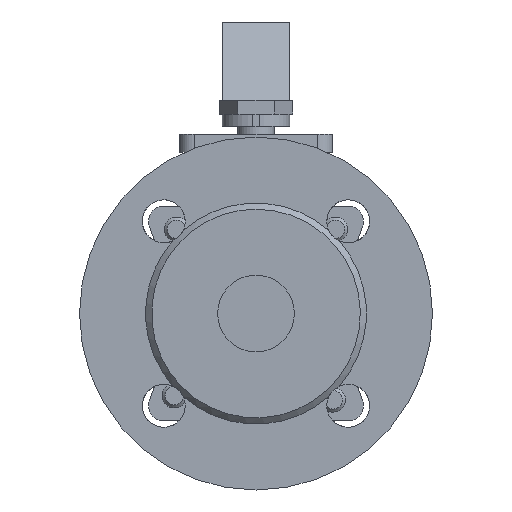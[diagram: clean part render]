
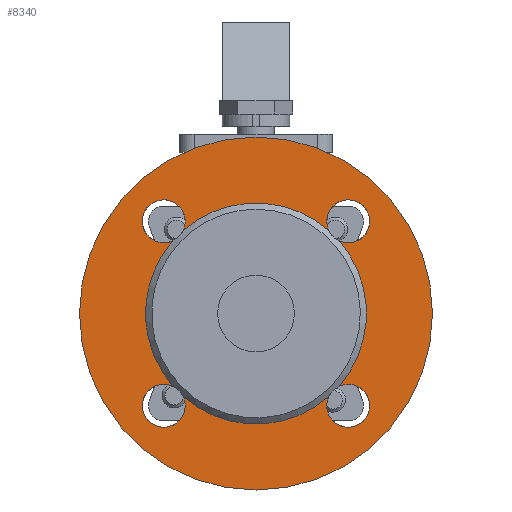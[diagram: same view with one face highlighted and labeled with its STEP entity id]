
A CAD part, left-side view. The second image highlights one B-rep face of the part: STEP entity #8340.
In plain terms, the highlighted planar face has unit normal (-1, 0, 0).
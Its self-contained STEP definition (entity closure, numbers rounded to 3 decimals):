
#8340=ADVANCED_FACE('',(#15498,#15500),#15502,.T.);
#15498=FACE_BOUND('',#15499,.T.);
#15499=EDGE_LOOP('',(#21430,#21431));
#15500=FACE_BOUND('',#15501,.T.);
#15501=EDGE_LOOP('',(#21432,#21433,#21434,#21435,#21436,#21437,#21438,#21439,#21440,
#21441,#21442,#21443,#21444));
#15502=PLANE('',#15503);
#15503=AXIS2_PLACEMENT_3D('',#15504,#15505,#15506);
#15504=CARTESIAN_POINT('',(2717.019,386.494,-640.883));
#15505=DIRECTION('',(-1.,0.,0.));
#15506=DIRECTION('',(0.,-1.,0.));
#21430=ORIENTED_EDGE('',*,*,#24480,.F.);
#21431=ORIENTED_EDGE('',*,*,#24479,.F.);
#21432=ORIENTED_EDGE('',*,*,#24481,.T.);
#21433=ORIENTED_EDGE('',*,*,#24482,.T.);
#21434=ORIENTED_EDGE('',*,*,#24483,.T.);
#21435=ORIENTED_EDGE('',*,*,#24484,.T.);
#21436=ORIENTED_EDGE('',*,*,#24485,.T.);
#21437=ORIENTED_EDGE('',*,*,#24486,.T.);
#21438=ORIENTED_EDGE('',*,*,#24487,.T.);
#21439=ORIENTED_EDGE('',*,*,#24488,.T.);
#21440=ORIENTED_EDGE('',*,*,#24489,.T.);
#21441=ORIENTED_EDGE('',*,*,#24490,.T.);
#21442=ORIENTED_EDGE('',*,*,#24491,.T.);
#21443=ORIENTED_EDGE('',*,*,#24492,.T.);
#21444=ORIENTED_EDGE('',*,*,#24493,.T.);
#24479=EDGE_CURVE('',#29050,#29051,#29052,.T.);
#24480=EDGE_CURVE('',#29051,#29050,#29053,.T.);
#24481=EDGE_CURVE('',#29054,#29055,#29056,.T.);
#24482=EDGE_CURVE('',#29055,#29057,#29058,.T.);
#24483=EDGE_CURVE('',#29057,#29059,#29060,.T.);
#24484=EDGE_CURVE('',#29059,#29061,#29062,.T.);
#24485=EDGE_CURVE('',#29061,#29063,#29064,.T.);
#24486=EDGE_CURVE('',#29063,#29065,#29066,.T.);
#24487=EDGE_CURVE('',#29065,#29067,#29068,.T.);
#24488=EDGE_CURVE('',#29067,#29069,#29070,.T.);
#24489=EDGE_CURVE('',#29069,#29071,#29072,.T.);
#24490=EDGE_CURVE('',#29071,#29073,#29074,.T.);
#24491=EDGE_CURVE('',#29073,#29075,#29076,.T.);
#24492=EDGE_CURVE('',#29075,#29077,#29078,.T.);
#24493=EDGE_CURVE('',#29077,#29054,#29079,.T.);
#29050=VERTEX_POINT('',#40057);
#29051=VERTEX_POINT('',#40058);
#29052=CIRCLE('',#40059,57.5);
#29053=CIRCLE('',#40063,57.5);
#29054=VERTEX_POINT('',#40067);
#29055=VERTEX_POINT('',#40068);
#29056=CIRCLE('',#40069,7.);
#29057=VERTEX_POINT('',#40073);
#29058=CIRCLE('',#40074,7.);
#29059=VERTEX_POINT('',#40078);
#29060=CIRCLE('',#40079,36.);
#29061=VERTEX_POINT('',#40083);
#29062=CIRCLE('',#40084,36.);
#29063=VERTEX_POINT('',#40088);
#29064=CIRCLE('',#40089,7.);
#29065=VERTEX_POINT('',#40093);
#29066=CIRCLE('',#40094,7.);
#29067=VERTEX_POINT('',#40098);
#29068=CIRCLE('',#40099,36.);
#29069=VERTEX_POINT('',#40103);
#29070=CIRCLE('',#40104,7.);
#29071=VERTEX_POINT('',#40108);
#29072=CIRCLE('',#40109,7.);
#29073=VERTEX_POINT('',#40113);
#29074=CIRCLE('',#40114,36.);
#29075=VERTEX_POINT('',#40118);
#29076=CIRCLE('',#40119,7.);
#29077=VERTEX_POINT('',#40123);
#29078=CIRCLE('',#40124,7.);
#29079=CIRCLE('',#40128,36.);
#40057=CARTESIAN_POINT('',(2717.019,386.494,-640.883));
#40058=CARTESIAN_POINT('',(2717.019,386.494,-755.883));
#40059=AXIS2_PLACEMENT_3D('',#40060,#40061,#40062);
#40060=CARTESIAN_POINT('',(2717.019,386.494,-698.383));
#40061=DIRECTION('',(1.,0.,0.));
#40062=DIRECTION('',(0.,0.,1.));
#40063=AXIS2_PLACEMENT_3D('',#40064,#40065,#40066);
#40064=CARTESIAN_POINT('',(2717.019,386.494,-698.383));
#40065=DIRECTION('',(1.,0.,0.));
#40066=DIRECTION('',(0.,0.,-1.));
#40067=CARTESIAN_POINT('',(2717.019,410.204,-725.472));
#40068=CARTESIAN_POINT('',(2717.019,423.38,-726.918));
#40069=AXIS2_PLACEMENT_3D('',#40070,#40071,#40072);
#40070=CARTESIAN_POINT('',(2717.019,416.546,-728.435));
#40071=DIRECTION('',(1.,0.,0.));
#40072=DIRECTION('',(0.,-0.906,0.423));
#40073=CARTESIAN_POINT('',(2717.019,413.584,-722.093));
#40074=AXIS2_PLACEMENT_3D('',#40075,#40076,#40077);
#40075=CARTESIAN_POINT('',(2717.019,416.546,-728.435));
#40076=DIRECTION('',(1.,0.,0.));
#40077=DIRECTION('',(0.,0.976,0.217));
#40078=CARTESIAN_POINT('',(2717.019,419.278,-683.509));
#40079=AXIS2_PLACEMENT_3D('',#40080,#40081,#40082);
#40080=CARTESIAN_POINT('',(2717.019,386.494,-698.383));
#40081=DIRECTION('',(1.,0.,0.));
#40082=DIRECTION('',(0.,0.752,-0.659));
#40083=CARTESIAN_POINT('',(2717.019,413.584,-674.673));
#40084=AXIS2_PLACEMENT_3D('',#40085,#40086,#40087);
#40085=CARTESIAN_POINT('',(2717.019,386.494,-698.383));
#40086=DIRECTION('',(1.,0.,0.));
#40087=DIRECTION('',(0.,0.911,0.413));
#40088=CARTESIAN_POINT('',(2717.019,420.305,-662.426));
#40089=AXIS2_PLACEMENT_3D('',#40090,#40091,#40092);
#40090=CARTESIAN_POINT('',(2717.019,416.546,-668.331));
#40091=DIRECTION('',(1.,0.,0.));
#40092=DIRECTION('',(0.,-0.423,-0.906));
#40093=CARTESIAN_POINT('',(2717.019,410.204,-671.293));
#40094=AXIS2_PLACEMENT_3D('',#40095,#40096,#40097);
#40095=CARTESIAN_POINT('',(2717.019,416.546,-668.331));
#40096=DIRECTION('',(1.,0.,0.));
#40097=DIRECTION('',(0.,0.537,0.844));
#40098=CARTESIAN_POINT('',(2717.019,362.784,-671.293));
#40099=AXIS2_PLACEMENT_3D('',#40100,#40101,#40102);
#40100=CARTESIAN_POINT('',(2717.019,386.494,-698.383));
#40101=DIRECTION('',(1.,0.,0.));
#40102=DIRECTION('',(0.,0.659,0.752));
#40103=CARTESIAN_POINT('',(2717.019,357.959,-675.164));
#40104=AXIS2_PLACEMENT_3D('',#40105,#40106,#40107);
#40105=CARTESIAN_POINT('',(2717.019,356.442,-668.331));
#40106=DIRECTION('',(1.,0.,0.));
#40107=DIRECTION('',(0.,0.906,-0.423));
#40108=CARTESIAN_POINT('',(2717.019,359.404,-674.673));
#40109=AXIS2_PLACEMENT_3D('',#40110,#40111,#40112);
#40110=CARTESIAN_POINT('',(2717.019,356.442,-668.331));
#40111=DIRECTION('',(1.,0.,0.));
#40112=DIRECTION('',(0.,0.217,-0.976));
#40113=CARTESIAN_POINT('',(2717.019,359.404,-722.093));
#40114=AXIS2_PLACEMENT_3D('',#40115,#40116,#40117);
#40115=CARTESIAN_POINT('',(2717.019,386.494,-698.383));
#40116=DIRECTION('',(1.,0.,0.));
#40117=DIRECTION('',(0.,-0.752,0.659));
#40118=CARTESIAN_POINT('',(2717.019,362.347,-732.194));
#40119=AXIS2_PLACEMENT_3D('',#40120,#40121,#40122);
#40120=CARTESIAN_POINT('',(2717.019,356.442,-728.435));
#40121=DIRECTION('',(1.,0.,0.));
#40122=DIRECTION('',(0.,0.423,0.906));
#40123=CARTESIAN_POINT('',(2717.019,362.784,-725.472));
#40124=AXIS2_PLACEMENT_3D('',#40125,#40126,#40127);
#40125=CARTESIAN_POINT('',(2717.019,356.442,-728.435));
#40126=DIRECTION('',(1.,0.,0.));
#40127=DIRECTION('',(0.,0.844,-0.537));
#40128=AXIS2_PLACEMENT_3D('',#40129,#40130,#40131);
#40129=CARTESIAN_POINT('',(2717.019,386.494,-698.383));
#40130=DIRECTION('',(1.,0.,0.));
#40131=DIRECTION('',(0.,-0.659,-0.752));
